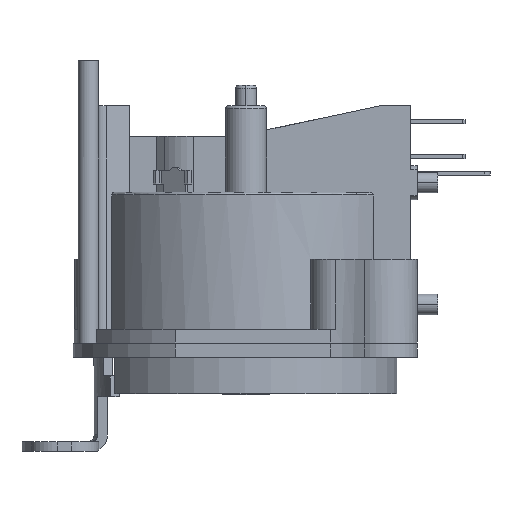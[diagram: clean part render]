
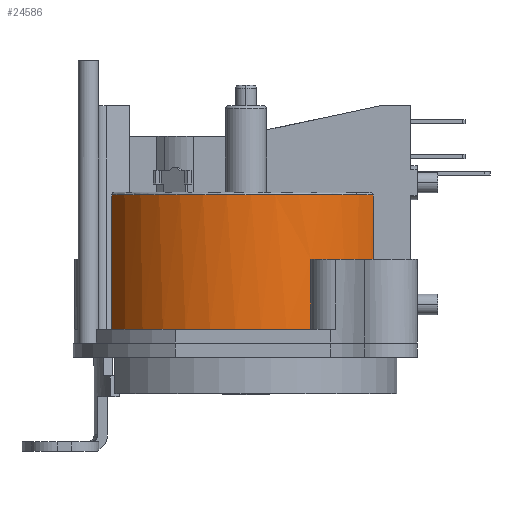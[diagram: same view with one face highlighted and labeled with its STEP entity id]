
A CAD part, left-side view. The second image highlights one B-rep face of the part: STEP entity #24586.
In plain terms, the highlighted cylindrical face has radius 11 mm (diameter 22 mm), a partial arc.
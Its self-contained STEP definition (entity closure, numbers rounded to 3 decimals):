
#4383=CARTESIAN_POINT('',(0.,0.,-19.6));
#4384=DIRECTION('',(0.,0.,-1.));
#4385=DIRECTION('',(-0.903,-0.429,0.));
#4386=AXIS2_PLACEMENT_3D('',#4383,#4384,#4385);
#4453=CARTESIAN_POINT('',(0.,0.,-19.6));
#4454=DIRECTION('',(0.,0.,-1.));
#4455=DIRECTION('',(-0.536,-0.844,0.));
#4456=AXIS2_PLACEMENT_3D('',#4453,#4454,#4455);
#4564=CARTESIAN_POINT('',(0.,0.,-14.5));
#4565=DIRECTION('',(0.,0.,-1.));
#4566=DIRECTION('',(-0.564,-0.826,0.));
#4567=AXIS2_PLACEMENT_3D('',#4564,#4565,#4566);
#5584=DIRECTION('',(0.,0.,-1.));
#5585=VECTOR('',#5584,9.8);
#5586=CARTESIAN_POINT('',(-5.,9.798,-9.8));
#5587=LINE('',#5586,#5585);
#5600=CARTESIAN_POINT('',(0.,0.,-9.8));
#5601=DIRECTION('',(0.,0.,-1.));
#5602=DIRECTION('',(-0.536,-0.844,0.));
#5603=AXIS2_PLACEMENT_3D('',#5600,#5601,#5602);
#5626=DIRECTION('',(0.,0.,-1.));
#5627=VECTOR('',#5626,9.8);
#5628=CARTESIAN_POINT('',(-5.9,-9.284,-9.8));
#5629=LINE('',#5628,#5627);
#5630=DIRECTION('',(0.,0.,-1.));
#5631=VECTOR('',#5630,5.1);
#5632=CARTESIAN_POINT('',(-9.934,-4.724,-14.5));
#5633=LINE('',#5632,#5631);
#7576=DIRECTION('',(0.,0.,-1.));
#7577=VECTOR('',#7576,5.1);
#7578=CARTESIAN_POINT('',(-6.207,-9.082,-14.5));
#7579=LINE('',#7578,#7577);
#13835=CARTESIAN_POINT('',(-9.934,-4.724,-19.6));
#13836=CARTESIAN_POINT('',(-5.,9.798,-19.6));
#13837=VERTEX_POINT('',#13835);
#13838=VERTEX_POINT('',#13836);
#13962=CARTESIAN_POINT('',(-5.9,-9.284,-19.6));
#13964=VERTEX_POINT('',#13962);
#14073=CARTESIAN_POINT('',(-9.934,-4.724,-14.5));
#14074=VERTEX_POINT('',#14073);
#14075=CARTESIAN_POINT('',(-6.207,-9.082,-14.5));
#14076=VERTEX_POINT('',#14075);
#14085=CARTESIAN_POINT('',(-6.207,-9.082,-19.6));
#14086=VERTEX_POINT('',#14085);
#17783=CARTESIAN_POINT('',(-5.,9.798,-9.8));
#17784=VERTEX_POINT('',#17783);
#17793=CARTESIAN_POINT('',(-5.9,-9.284,-9.8));
#17794=VERTEX_POINT('',#17793);
#24568=CARTESIAN_POINT('',(0.,0.,0.));
#24569=DIRECTION('',(0.,0.,1.));
#24570=DIRECTION('',(0.,1.,0.));
#24571=AXIS2_PLACEMENT_3D('',#24568,#24569,#24570);
#24572=CYLINDRICAL_SURFACE('',#24571,11.);
#24573=ORIENTED_EDGE('',*,*,#24559,.F.);
#24575=ORIENTED_EDGE('',*,*,#24574,.T.);
#24576=ORIENTED_EDGE('',*,*,#23101,.T.);
#24578=ORIENTED_EDGE('',*,*,#24577,.F.);
#24579=ORIENTED_EDGE('',*,*,#23228,.T.);
#24581=ORIENTED_EDGE('',*,*,#24580,.T.);
#24582=ORIENTED_EDGE('',*,*,#23053,.T.);
#24583=ORIENTED_EDGE('',*,*,#24542,.F.);
#24584=EDGE_LOOP('',(#24573,#24575,#24576,#24578,#24579,#24581,#24582,#24583));
#24585=FACE_OUTER_BOUND('',#24584,.F.);
#4387=CIRCLE('',#4386,11.);
#4457=CIRCLE('',#4456,11.);
#4568=CIRCLE('',#4567,11.);
#5604=CIRCLE('',#5603,11.);
#23053=EDGE_CURVE('',#13837,#13838,#4387,.T.);
#23101=EDGE_CURVE('',#13964,#14086,#4457,.T.);
#23228=EDGE_CURVE('',#14076,#14074,#4568,.T.);
#24542=EDGE_CURVE('',#17784,#13838,#5587,.T.);
#24559=EDGE_CURVE('',#17794,#17784,#5604,.T.);
#24574=EDGE_CURVE('',#17794,#13964,#5629,.T.);
#24577=EDGE_CURVE('',#14076,#14086,#7579,.T.);
#24580=EDGE_CURVE('',#14074,#13837,#5633,.T.);
#24586=ADVANCED_FACE('',(#24585),#24572,.T.);
